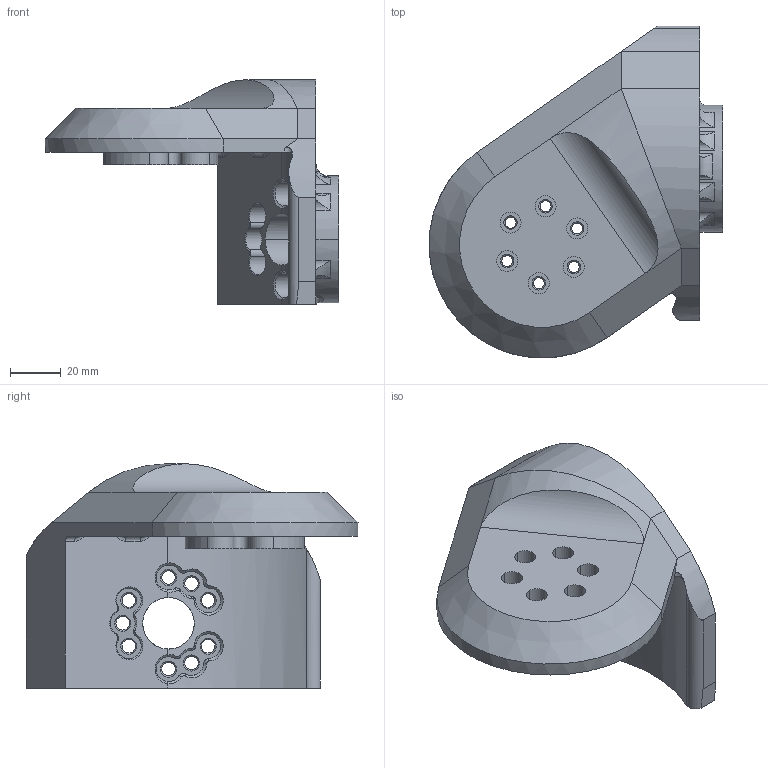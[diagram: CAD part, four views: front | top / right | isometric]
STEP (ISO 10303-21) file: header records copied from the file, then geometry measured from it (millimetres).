
FILE_DESCRIPTION((''),'2;1');
FILE_NAME('KD-D-102R-A','2025-07-12T17:11:03',('Administrator'),(''),'CREO PARAMETRIC BY PTC INC, 2022073','CREO PARAMETRIC BY PTC INC, 2022073','');
FILE_SCHEMA(('CONFIG_CONTROL_DESIGN'));
Length unit declared in the file: millimetre
Products named in the file (1): KD-D-102R-A
Bounding box: 115.41 x 130.47 x 88.2 mm (x, y, z)
Volume: 136305.3 mm3; surface area: 69913 mm2
Topology: 1 solids, 2 shells, 591 faces, 1556 edges, 914 vertices
Faces by surface type: cylinder 235, bspline 119, plane 86, cone 84, sphere 40, torus 24, extrusion 3
Entity records: 21257 total; most frequent: CARTESIAN_POINT 7833, ORIENTED_EDGE 2970, DIRECTION 2588, EDGE_CURVE 1485, AXIS2_PLACEMENT_3D 1042, VERTEX_POINT 914, EDGE_LOOP 647, FACE_OUTER_BOUND 591
